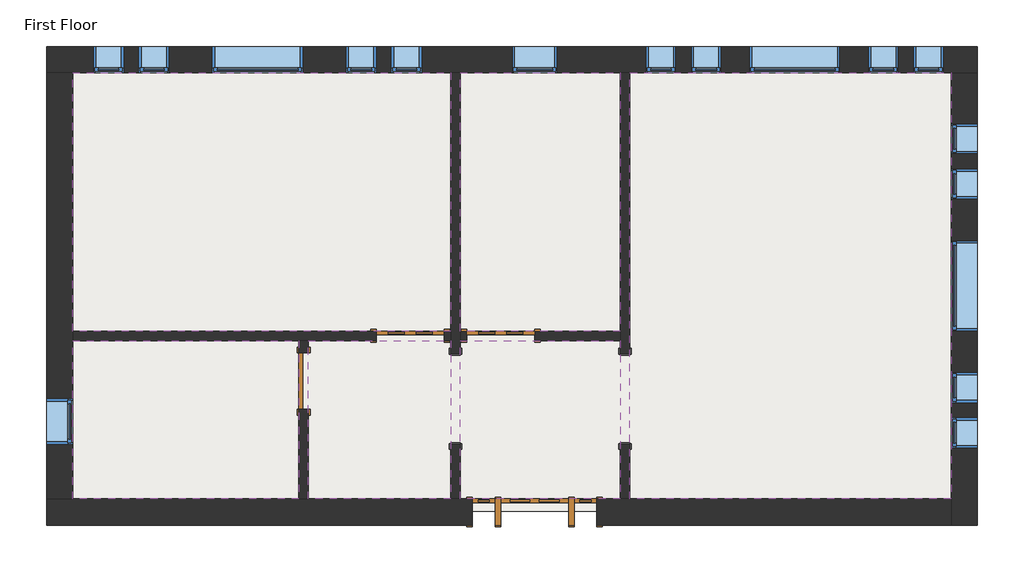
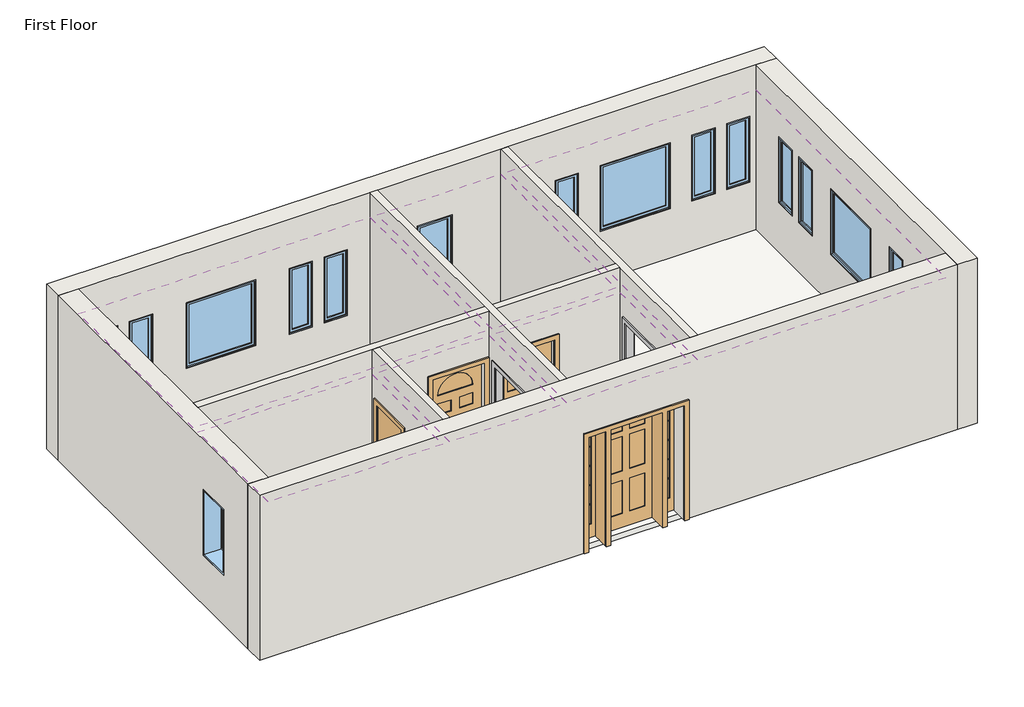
# One storey: 17 windows, 9 walls, 6 coverings, 4 doors, 2 proxies, 1 slab.
"""IFC4 building model written with IfcOpenShell, lengths in millimetres."""

from ifc_helpers import new_model, si_unit, frame, origin, place, context, project, spatial, polyline, outline, extrude, faceted_brep, transform, mapped, element, save
from components import proxy_f44482cc, door_829da954, door_2e3b4da2, door_4d6c7550, door_dba5aa2e, window_da97879f, window_d61ef850, window_60baf983, window_6eb97611

model = new_model("IFC4")

# Units and contexts
model_context = context("Model", 3, world=origin())
ifc_project = project(units=[si_unit("LENGTHUNIT", "METRE", prefix="MILLI")], contexts=[model_context])

# Site, building, storey
site = spatial("IfcSite", under=ifc_project)
building = spatial("IfcBuilding", under=site)
storey = spatial("IfcBuildingStorey", under=building, Name="First Floor", Elevation=0.0)

# Proxies
placement = place(None, origin())
proxy_shape = proxy_f44482cc(model_context)
element("IfcBuildingElementProxy", 1, Name="Opening-Cased : 48\" x 84\"", ObjectType="Opening-Cased : 48\" x 84\"", at=placement, inside=storey, context=model_context, shape_type="MappedRepresentation", body=[
    mapped(proxy_shape, transform((-3773.4589563, 5882.4203434, 0.0), x_axis=(0.0, 1.0, 0.0), y_axis=(-1.0, 0.0, 0.0), z_axis=(0.0, 0.0, 1.0))),
])
element("IfcBuildingElementProxy", 2, Name="Opening-Cased : 48\" x 84\"", ObjectType="Opening-Cased : 48\" x 84\"", at=placement, inside=storey, context=model_context, shape_type="MappedRepresentation", body=[
    mapped(proxy_shape, transform((-6059.4589563, 5866.04303, 0.0), x_axis=(0.0, -1.0, 0.0), y_axis=(1.0, 0.0, 0.0), z_axis=(0.0, 0.0, 1.0))),
])

# Coverings
element("IfcCovering", 3, ObjectType="GWB on Mtl. Stud", at=placement, inside=storey, context=model_context, shape_type="SweptSolid", body=[
    extrude(outline(polyline([(-11217.2464563, 10270.0191867), (-6122.9589563, 10270.0191867), (-6122.9589563, 6787.0441867), (-11217.2464563, 6787.0441867), (-11217.2464563, 10270.0191867)])), frame((0.0, 0.0, 2590.8), z_axis=(0.0, 0.0, 1.0), x_axis=(1.0, 0.0, 0.0)), (0.0, 0.0, 1.0), 107.95),
])
element("IfcCovering", 4, ObjectType="GWB on Mtl. Stud", at=placement, inside=storey, context=model_context, shape_type="SweptSolid", body=[
    extrude(outline(polyline([(-5995.9589563, 6787.0441867), (-5995.9589563, 10270.0191867), (-3836.9589563, 10270.0191867), (-3836.9589563, 6787.0441867), (-5995.9589563, 6787.0441867)])), frame((0.0, 0.0, 2590.8), z_axis=(0.0, 0.0, 1.0), x_axis=(1.0, 0.0, 0.0)), (0.0, 0.0, 1.0), 107.95),
])
element("IfcCovering", 5, ObjectType="GWB on Mtl. Stud", at=placement, inside=storey, context=model_context, shape_type="SweptSolid", body=[
    extrude(outline(polyline([(-3709.9589563, 4526.4441867), (-3709.9589563, 10270.0191867), (622.3285437, 10270.0191867), (622.3285437, 4526.4441867), (-3709.9589563, 4526.4441867)])), frame((0.0, 0.0, 2590.8), z_axis=(0.0, 0.0, 1.0), x_axis=(1.0, 0.0, 0.0)), (0.0, 0.0, 1.0), 107.95),
])
element("IfcCovering", 6, ObjectType="GWB on Mtl. Stud", at=placement, inside=storey, context=model_context, shape_type="SweptSolid", body=[
    extrude(outline(polyline([(-3836.9589563, 4526.4441867), (-5995.9589563, 4526.4441867), (-5995.9589563, 6660.0441867), (-3836.9589563, 6660.0441867), (-3836.9589563, 4526.4441867)])), frame((0.0, 0.0, 2590.8), z_axis=(0.0, 0.0, 1.0), x_axis=(1.0, 0.0, 0.0)), (0.0, 0.0, 1.0), 107.95),
])
element("IfcCovering", 7, ObjectType="GWB on Mtl. Stud", at=placement, inside=storey, context=model_context, shape_type="SweptSolid", body=[
    extrude(outline(polyline([(-8169.2464563, 6660.0441867), (-8169.2464563, 4526.4441867), (-11217.2464563, 4526.4441867), (-11217.2464563, 6660.0441867), (-8169.2464563, 6660.0441867)])), frame((0.0, 0.0, 2590.8), z_axis=(0.0, 0.0, 1.0), x_axis=(1.0, 0.0, 0.0)), (0.0, 0.0, 1.0), 107.95),
])
element("IfcCovering", 8, ObjectType="GWB on Mtl. Stud", at=placement, inside=storey, context=model_context, shape_type="SweptSolid", body=[
    extrude(outline(polyline([(-6122.9589563, 4526.4441867), (-8042.2464563, 4526.4441867), (-8042.2464563, 6660.0441867), (-6122.9589563, 6660.0441867), (-6122.9589563, 4526.4441867)])), frame((0.0, 0.0, 2590.8), z_axis=(0.0, 0.0, 1.0), x_axis=(1.0, 0.0, 0.0)), (0.0, 0.0, 1.0), 107.95),
])

# Doors
door_shape = door_829da954(model_context)
element("IfcDoor", 9, ObjectType="Single-Decorative 2 : 36\" x 84\"", at=placement, inside=storey, context=model_context, shape_type="MappedRepresentation", body=[
    mapped(door_shape, transform((-5449.8589563, 6723.5441867, 0.0), x_axis=(-1.0, 0.0, 0.0), y_axis=(0.0, -1.0, 0.0), z_axis=(0.0, 0.0, 1.0))),
])
door_2_shape = door_2e3b4da2(model_context)
element("IfcDoor", 10, ObjectType="Single-Decorative 2 : 36\" x 84\"", at=placement, inside=storey, context=model_context, shape_type="MappedRepresentation", body=[
    mapped(door_2_shape, transform((-6669.0589563, 6723.5441867, 0.0), x_axis=(1.0, 0.0, 0.0), y_axis=(0.0, 1.0, 0.0), z_axis=(0.0, 0.0, 1.0))),
])
door_3_shape = door_4d6c7550(model_context)
element("IfcDoor", 11, ObjectType="Single-Flush : 30\" x 84\"", at=placement, inside=storey, context=model_context, shape_type="MappedRepresentation", body=[
    mapped(door_3_shape, transform((-8105.7464563, 6113.9441867, 0.0), x_axis=(0.0, 1.0, 0.0), y_axis=(-1.0, 0.0, 0.0), z_axis=(0.0, 0.0, 1.0))),
])
door_4_shape = door_dba5aa2e(model_context)
element("IfcDoor", 12, ObjectType="Single-Raised Panel with Sidelights : 36\" x 84\"", at=placement, inside=storey, context=model_context, shape_type="MappedRepresentation", body=[
    mapped(door_4_shape, transform((-4992.6589563, 4350.2316867, 0.0), x_axis=(-1.0, 0.0, 0.0), y_axis=(0.0, -1.0, 0.0), z_axis=(0.0, 0.0, 1.0))),
])

# Slab
element("IfcSlab", 13, ObjectType="LW Concrete on Metal Deck", at=placement, inside=storey, context=model_context, shape_type="SweptSolid", body=[
    extrude(outline(polyline([(787.4285437, 10435.1191867), (787.4285437, 4361.3441867), (-11382.3464563, 4361.3441867), (-11382.3464563, 10435.1191867), (787.4285437, 10435.1191867)])), frame((0.0, 0.0, -104.775), z_axis=(0.0, 0.0, 1.0), x_axis=(1.0, 0.0, 0.0)), (0.0, 0.0, 1.0), 104.775),
])

# Walls
element("IfcWall", 14, ObjectType="Exterior - Brick on Mtl. Stud", at=placement, inside=storey, context=model_context, shape_type="Brep", body=[
    faceted_brep([(-11569.6714563, 10270.0191867, 0.0), (-11382.3464563, 10270.0191867, 0.0), (-11217.2464563, 10270.0191867, 0.0), (-6122.9589563, 10270.0191867, 0.0), (-5995.9589563, 10270.0191867, 0.0), (-3836.9589563, 10270.0191867, 0.0), (-3709.9589563, 10270.0191867, 0.0), (622.3285437, 10270.0191867, 0.0), (787.4285437, 10270.0191867, 0.0), (974.7535437, 10270.0191867, 0.0), (974.7535437, 10270.0191867, 3048.0), (622.3285437, 10270.0191867, 3048.0), (-3709.9589563, 10270.0191867, 3048.0), (-3836.9589563, 10270.0191867, 3048.0), (-5995.9589563, 10270.0191867, 3048.0), (-6122.9589563, 10270.0191867, 3048.0), (-11217.2464563, 10270.0191867, 3048.0), (-11569.6714563, 10270.0191867, 3048.0), (-2884.4589563, 10270.0191867, 2133.6), (-2478.0589563, 10270.0191867, 2133.6), (-2478.0589563, 10270.0191867, 914.4), (-2884.4589563, 10270.0191867, 914.4), (-3494.0589563, 10270.0191867, 2133.6), (-3087.6589563, 10270.0191867, 2133.6), (-3087.6589563, 10270.0191867, 914.4), (-3494.0589563, 10270.0191867, 914.4), (-10326.6589563, 10270.0191867, 2133.6), (-9920.2589563, 10270.0191867, 2133.6), (-9920.2589563, 10270.0191867, 914.4), (-10326.6589563, 10270.0191867, 914.4), (-10936.2589563, 10270.0191867, 2133.6), (-10529.8589563, 10270.0191867, 2133.6), (-10529.8589563, 10270.0191867, 914.4), (-10936.2589563, 10270.0191867, 914.4), (-2097.0589563, 10270.0191867, 2133.6), (-877.8589563, 10270.0191867, 2133.6), (-877.8589563, 10270.0191867, 914.4), (-2097.0589563, 10270.0191867, 914.4), (-9336.0589563, 10270.0191867, 2133.6), (-8116.8589563, 10270.0191867, 2133.6), (-8116.8589563, 10270.0191867, 914.4), (-9336.0589563, 10270.0191867, 914.4), (-5297.4589563, 10270.0191867, 2133.6), (-4687.8589563, 10270.0191867, 2133.6), (-4687.8589563, 10270.0191867, 914.4), (-5297.4589563, 10270.0191867, 914.4), (-6516.6589563, 10270.0191867, 2133.6), (-6516.6589563, 10270.0191867, 914.4), (-6923.0589563, 10270.0191867, 914.4), (-6923.0589563, 10270.0191867, 2133.6), (-7126.2589563, 10270.0191867, 2133.6), (-7126.2589563, 10270.0191867, 914.4), (-7532.6589563, 10270.0191867, 914.4), (-7532.6589563, 10270.0191867, 2133.6), (519.1410437, 10270.0191867, 2133.6), (519.1410437, 10270.0191867, 914.4), (112.7410437, 10270.0191867, 914.4), (112.7410437, 10270.0191867, 2133.6), (-90.4589563, 10270.0191867, 2133.6), (-90.4589563, 10270.0191867, 914.4), (-496.8589563, 10270.0191867, 914.4), (-496.8589563, 10270.0191867, 2133.6), (-11569.6714563, 10622.4441867, 0.0), (-11569.6714563, 10622.4441867, 3048.0), (974.7535437, 10622.4441867, 3048.0), (974.7535437, 10622.4441867, 0.0), (787.4285437, 10622.4441867, 0.0), (-11382.3464563, 10622.4441867, 0.0), (-2884.4589563, 10622.4441867, 2133.6), (-2884.4589563, 10622.4441867, 914.4), (-2478.0589563, 10622.4441867, 914.4), (-2478.0589563, 10622.4441867, 2133.6), (-3494.0589563, 10622.4441867, 2133.6), (-3494.0589563, 10622.4441867, 914.4), (-3087.6589563, 10622.4441867, 914.4), (-3087.6589563, 10622.4441867, 2133.6), (-10326.6589563, 10622.4441867, 2133.6), (-10326.6589563, 10622.4441867, 914.4), (-9920.2589563, 10622.4441867, 914.4), (-9920.2589563, 10622.4441867, 2133.6), (-10936.2589563, 10622.4441867, 2133.6), (-10936.2589563, 10622.4441867, 914.4), (-10529.8589563, 10622.4441867, 914.4), (-10529.8589563, 10622.4441867, 2133.6), (-2097.0589563, 10622.4441867, 2133.6), (-2097.0589563, 10622.4441867, 914.4), (-877.8589563, 10622.4441867, 914.4), (-877.8589563, 10622.4441867, 2133.6), (-9336.0589563, 10622.4441867, 2133.6), (-9336.0589563, 10622.4441867, 914.4), (-8116.8589563, 10622.4441867, 914.4), (-8116.8589563, 10622.4441867, 2133.6), (-5297.4589563, 10622.4441867, 2133.6), (-5297.4589563, 10622.4441867, 914.4), (-4687.8589563, 10622.4441867, 914.4), (-4687.8589563, 10622.4441867, 2133.6), (-6516.6589563, 10622.4441867, 2133.6), (-6923.0589563, 10622.4441867, 2133.6), (-6923.0589563, 10622.4441867, 914.4), (-6516.6589563, 10622.4441867, 914.4), (-7126.2589563, 10622.4441867, 2133.6), (-7532.6589563, 10622.4441867, 2133.6), (-7532.6589563, 10622.4441867, 914.4), (-7126.2589563, 10622.4441867, 914.4), (519.1410437, 10622.4441867, 2133.6), (112.7410437, 10622.4441867, 2133.6), (112.7410437, 10622.4441867, 914.4), (519.1410437, 10622.4441867, 914.4), (-90.4589563, 10622.4441867, 2133.6), (-496.8589563, 10622.4441867, 2133.6), (-496.8589563, 10622.4441867, 914.4), (-90.4589563, 10622.4441867, 914.4), (974.7535437, 10435.1191867, 0.0), (-11569.6714563, 10435.1191867, 0.0), (-11382.3464563, 10435.1191867, 0.0), (787.4285437, 10435.1191867, 0.0)], [[[0, 1, 2, 3, 4, 5, 6, 7, 8, 9, 10, 11, 12, 13, 14, 15, 16, 17], [18, 19, 20, 21], [22, 23, 24, 25], [26, 27, 28, 29], [30, 31, 32, 33], [34, 35, 36, 37], [38, 39, 40, 41], [42, 43, 44, 45], [46, 47, 48, 49], [50, 51, 52, 53], [54, 55, 56, 57], [58, 59, 60, 61]], [[62, 63, 64, 65, 66, 67], [68, 69, 70, 71], [72, 73, 74, 75], [76, 77, 78, 79], [80, 81, 82, 83], [84, 85, 86, 87], [88, 89, 90, 91], [92, 93, 94, 95], [96, 97, 98, 99], [100, 101, 102, 103], [104, 105, 106, 107], [108, 109, 110, 111]], [[17, 16, 15, 14, 13, 12, 11, 10, 64, 63]], [[10, 9, 112, 65, 64]], [[0, 17, 63, 62, 113]], [[1, 0, 113, 114]], [[113, 62, 67, 114]], [[9, 8, 115, 112]], [[67, 66, 115, 114]], [[66, 65, 112, 115]], [[8, 7, 6, 5, 4, 3, 2, 1, 114, 115]], [[69, 68, 18, 21]], [[70, 69, 21, 20]], [[71, 70, 20, 19]], [[68, 71, 19, 18]], [[73, 72, 22, 25]], [[74, 73, 25, 24]], [[75, 74, 24, 23]], [[72, 75, 23, 22]], [[77, 76, 26, 29]], [[78, 77, 29, 28]], [[79, 78, 28, 27]], [[76, 79, 27, 26]], [[81, 80, 30, 33]], [[82, 81, 33, 32]], [[83, 82, 32, 31]], [[80, 83, 31, 30]], [[85, 84, 34, 37]], [[86, 85, 37, 36]], [[87, 86, 36, 35]], [[84, 87, 35, 34]], [[89, 88, 38, 41]], [[90, 89, 41, 40]], [[91, 90, 40, 39]], [[88, 91, 39, 38]], [[93, 92, 42, 45]], [[94, 93, 45, 44]], [[95, 94, 44, 43]], [[92, 95, 43, 42]], [[47, 46, 96, 99]], [[48, 47, 99, 98]], [[49, 48, 98, 97]], [[46, 49, 97, 96]], [[51, 50, 100, 103]], [[52, 51, 103, 102]], [[53, 52, 102, 101]], [[50, 53, 101, 100]], [[55, 54, 104, 107]], [[56, 55, 107, 106]], [[57, 56, 106, 105]], [[54, 57, 105, 104]], [[59, 58, 108, 111]], [[60, 59, 111, 110]], [[61, 60, 110, 109]], [[58, 61, 109, 108]]]),
])
element("IfcWall", 15, ObjectType="Exterior - Brick on Mtl. Stud", at=placement, inside=storey, context=model_context, shape_type="Brep", body=[
    faceted_brep([(622.3285437, 10270.0191867, 0.0), (622.3285437, 4526.4441867, 0.0), (622.3285437, 4361.3441867, 0.0), (622.3285437, 4174.0191867, 0.0), (622.3285437, 4174.0191867, 3048.0), (622.3285437, 4526.4441867, 3048.0), (622.3285437, 10270.0191867, 3048.0), (622.3285437, 8973.0316867, 2133.6), (622.3285437, 8566.6316867, 2133.6), (622.3285437, 8566.6316867, 914.4), (622.3285437, 8973.0316867, 914.4), (622.3285437, 9582.6316867, 2133.6), (622.3285437, 9176.2316867, 2133.6), (622.3285437, 9176.2316867, 914.4), (622.3285437, 9582.6316867, 914.4), (622.3285437, 8007.8316867, 2133.6), (622.3285437, 6788.6316867, 2133.6), (622.3285437, 6788.6316867, 914.4), (622.3285437, 8007.8316867, 914.4), (622.3285437, 5213.8316867, 2133.6), (622.3285437, 5213.8316867, 914.4), (622.3285437, 5620.2316867, 914.4), (622.3285437, 5620.2316867, 2133.6), (622.3285437, 5823.4316867, 2133.6), (622.3285437, 5823.4316867, 914.4), (622.3285437, 6229.8316867, 914.4), (622.3285437, 6229.8316867, 2133.6), (974.7535437, 10270.0191867, 0.0), (974.7535437, 10270.0191867, 3048.0), (974.7535437, 4174.0191867, 3048.0), (974.7535437, 4174.0191867, 0.0), (974.7535437, 4361.3441867, 0.0), (974.7535437, 8973.0316867, 2133.6), (974.7535437, 8973.0316867, 914.4), (974.7535437, 8566.6316867, 914.4), (974.7535437, 8566.6316867, 2133.6), (974.7535437, 9582.6316867, 2133.6), (974.7535437, 9582.6316867, 914.4), (974.7535437, 9176.2316867, 914.4), (974.7535437, 9176.2316867, 2133.6), (974.7535437, 8007.8316867, 2133.6), (974.7535437, 8007.8316867, 914.4), (974.7535437, 6788.6316867, 914.4), (974.7535437, 6788.6316867, 2133.6), (974.7535437, 5213.8316867, 2133.6), (974.7535437, 5620.2316867, 2133.6), (974.7535437, 5620.2316867, 914.4), (974.7535437, 5213.8316867, 914.4), (974.7535437, 5823.4316867, 2133.6), (974.7535437, 6229.8316867, 2133.6), (974.7535437, 6229.8316867, 914.4), (974.7535437, 5823.4316867, 914.4), (787.4285437, 4174.0191867, 0.0), (787.4285437, 10270.0191867, 0.0), (787.4285437, 4361.3441867, 0.0)], [[[0, 1, 2, 3, 4, 5, 6], [7, 8, 9, 10], [11, 12, 13, 14], [15, 16, 17, 18], [19, 20, 21, 22], [23, 24, 25, 26]], [[27, 28, 29, 30, 31], [32, 33, 34, 35], [36, 37, 38, 39], [40, 41, 42, 43], [44, 45, 46, 47], [48, 49, 50, 51]], [[6, 5, 4, 29, 28]], [[4, 3, 52, 30, 29]], [[0, 6, 28, 27, 53]], [[53, 27, 31, 54]], [[3, 2, 54, 52]], [[54, 31, 30, 52]], [[2, 1, 0, 53, 54]], [[33, 32, 7, 10]], [[34, 33, 10, 9]], [[35, 34, 9, 8]], [[32, 35, 8, 7]], [[37, 36, 11, 14]], [[38, 37, 14, 13]], [[39, 38, 13, 12]], [[36, 39, 12, 11]], [[41, 40, 15, 18]], [[42, 41, 18, 17]], [[43, 42, 17, 16]], [[40, 43, 16, 15]], [[20, 19, 44, 47]], [[21, 20, 47, 46]], [[22, 21, 46, 45]], [[19, 22, 45, 44]], [[24, 23, 48, 51]], [[25, 24, 51, 50]], [[26, 25, 50, 49]], [[23, 26, 49, 48]]]),
])
element("IfcWall", 16, ObjectType="Exterior - Brick on Mtl. Stud", at=placement, inside=storey, context=model_context, shape_type="Brep", body=[
    faceted_brep([(-5830.8589563, 4526.4441867, 2133.6), (-5830.8589563, 4526.4441867, 0.0), (-5995.9589563, 4526.4441867, 0.0), (-6122.9589563, 4526.4441867, 0.0), (-8042.2464563, 4526.4441867, 0.0), (-8169.2464563, 4526.4441867, 0.0), (-11217.2464563, 4526.4441867, 0.0), (-11569.6714563, 4526.4441867, 0.0), (-11569.6714563, 4526.4441867, 3048.0), (-11217.2464563, 4526.4441867, 3048.0), (-8169.2464563, 4526.4441867, 3048.0), (-8042.2464563, 4526.4441867, 3048.0), (-6122.9589563, 4526.4441867, 3048.0), (-5995.9589563, 4526.4441867, 3048.0), (-3836.9589563, 4526.4441867, 3048.0), (-3709.9589563, 4526.4441867, 3048.0), (622.3285437, 4526.4441867, 3048.0), (622.3285437, 4526.4441867, 0.0), (-3709.9589563, 4526.4441867, 0.0), (-3836.9589563, 4526.4441867, 0.0), (-4154.4589563, 4526.4441867, 0.0), (-4154.4589563, 4526.4441867, 2133.6), (-11569.6714563, 4174.0191867, 0.0), (-5830.8589563, 4174.0191867, 0.0), (-5830.8589563, 4174.0191867, 2133.6), (-4154.4589563, 4174.0191867, 2133.6), (-4154.4589563, 4174.0191867, 0.0), (622.3285437, 4174.0191867, 0.0), (622.3285437, 4174.0191867, 3048.0), (-11569.6714563, 4174.0191867, 3048.0)], [[[0, 1, 2, 3, 4, 5, 6, 7, 8, 9, 10, 11, 12, 13, 14, 15, 16, 17, 18, 19, 20, 21]], [[22, 23, 24, 25, 26, 27, 28, 29]], [[7, 6, 5, 4, 3, 2, 1, 23, 22]], [[20, 19, 18, 17, 27, 26]], [[16, 15, 14, 13, 12, 11, 10, 9, 8, 29, 28]], [[8, 7, 22, 29]], [[17, 16, 28, 27]], [[24, 23, 1, 0]], [[25, 24, 0, 21]], [[26, 25, 21, 20]]]),
])
element("IfcWall", 17, ObjectType="Exterior - Brick on Mtl. Stud", at=placement, inside=storey, context=model_context, shape_type="Brep", body=[
    faceted_brep([(-11217.2464563, 4526.4441867, 0.0), (-11217.2464563, 6660.0441867, 0.0), (-11217.2464563, 6787.0441867, 0.0), (-11217.2464563, 10270.0191867, 0.0), (-11217.2464563, 10270.0191867, 3048.0), (-11217.2464563, 6787.0441867, 3048.0), (-11217.2464563, 6660.0441867, 3048.0), (-11217.2464563, 4526.4441867, 3048.0), (-11217.2464563, 5264.6316867, 2133.6), (-11217.2464563, 5874.2316867, 2133.6), (-11217.2464563, 5874.2316867, 914.4), (-11217.2464563, 5264.6316867, 914.4), (-11569.6714563, 4526.4441867, 0.0), (-11569.6714563, 4526.4441867, 3048.0), (-11569.6714563, 10270.0191867, 3048.0), (-11569.6714563, 10270.0191867, 0.0), (-11569.6714563, 5264.6316867, 2133.6), (-11569.6714563, 5264.6316867, 914.4), (-11569.6714563, 5874.2316867, 914.4), (-11569.6714563, 5874.2316867, 2133.6), (-11382.3464563, 4526.4441867, 0.0), (-11382.3464563, 10270.0191867, 0.0)], [[[0, 1, 2, 3, 4, 5, 6, 7], [8, 9, 10, 11]], [[12, 13, 14, 15], [16, 17, 18, 19]], [[7, 6, 5, 4, 14, 13]], [[0, 7, 13, 12, 20]], [[4, 3, 21, 15, 14]], [[20, 12, 15, 21]], [[3, 2, 1, 0, 20, 21]], [[17, 16, 8, 11]], [[18, 17, 11, 10]], [[19, 18, 10, 9]], [[16, 19, 9, 8]]]),
])
element("IfcWall", 18, ObjectType="Interior - 5\" Partition (2-hr)", at=placement, inside=storey, context=model_context, shape_type="Brep", body=[
    faceted_brep([(-3836.9589563, 10270.0191867, 0.0), (-3836.9589563, 6787.0441867, 0.0), (-3836.9589563, 6660.0441867, 0.0), (-3836.9589563, 6483.8316867, 0.0), (-3836.9589563, 6483.8316867, 2133.6), (-3836.9589563, 5264.6316867, 2133.6), (-3836.9589563, 5264.6316867, 0.0), (-3836.9589563, 4526.4441867, 0.0), (-3836.9589563, 4526.4441867, 3048.0), (-3836.9589563, 6660.0441867, 3048.0), (-3836.9589563, 6787.0441867, 3048.0), (-3836.9589563, 10270.0191867, 3048.0), (-3709.9589563, 6483.8316867, 2133.6), (-3709.9589563, 6483.8316867, 0.0), (-3709.9589563, 10270.0191867, 0.0), (-3709.9589563, 10270.0191867, 3048.0), (-3709.9589563, 4526.4441867, 3048.0), (-3709.9589563, 4526.4441867, 0.0), (-3709.9589563, 5264.6316867, 0.0), (-3709.9589563, 5264.6316867, 2133.6)], [[[0, 1, 2, 3, 4, 5, 6, 7, 8, 9, 10, 11]], [[12, 13, 14, 15, 16, 17, 18, 19]], [[14, 13, 3, 2, 1, 0]], [[18, 17, 7, 6]], [[11, 10, 9, 8, 16, 15]], [[0, 11, 15, 14]], [[8, 7, 17, 16]], [[6, 5, 19, 18]], [[4, 3, 13, 12]], [[5, 4, 12, 19]]]),
])
element("IfcWall", 19, ObjectType="Interior - 5\" Partition (2-hr)", at=placement, inside=storey, context=model_context, shape_type="Brep", body=[
    faceted_brep([(-6122.9589563, 5264.6316867, 2133.6), (-6122.9589563, 5264.6316867, 0.0), (-6122.9589563, 4526.4441867, 0.0), (-6122.9589563, 4526.4441867, 3048.0), (-6122.9589563, 6660.0441867, 3048.0), (-6122.9589563, 6787.0441867, 3048.0), (-6122.9589563, 10270.0191867, 3048.0), (-6122.9589563, 10270.0191867, 0.0), (-6122.9589563, 6787.0441867, 0.0), (-6122.9589563, 6660.0441867, 0.0), (-6122.9589563, 6483.8316867, 0.0), (-6122.9589563, 6483.8316867, 2133.6), (-5995.9589563, 4526.4441867, 0.0), (-5995.9589563, 5264.6316867, 0.0), (-5995.9589563, 5264.6316867, 2133.6), (-5995.9589563, 6483.8316867, 2133.6), (-5995.9589563, 6483.8316867, 0.0), (-5995.9589563, 6660.0441867, 0.0), (-5995.9589563, 6787.0441867, 0.0), (-5995.9589563, 10270.0191867, 0.0), (-5995.9589563, 10270.0191867, 3048.0), (-5995.9589563, 6787.0441867, 3048.0), (-5995.9589563, 6660.0441867, 3048.0), (-5995.9589563, 4526.4441867, 3048.0)], [[[0, 1, 2, 3, 4, 5, 6, 7, 8, 9, 10, 11]], [[12, 13, 14, 15, 16, 17, 18, 19, 20, 21, 22, 23]], [[2, 1, 13, 12]], [[10, 9, 8, 7, 19, 18, 17, 16]], [[6, 5, 4, 3, 23, 22, 21, 20]], [[7, 6, 20, 19]], [[3, 2, 12, 23]], [[16, 15, 11, 10]], [[14, 13, 1, 0]], [[15, 14, 0, 11]]]),
])
element("IfcWall", 20, ObjectType="Interior - 5\" Partition (2-hr)", at=placement, inside=storey, context=model_context, shape_type="Brep", body=[
    faceted_brep([(-6211.8589563, 6660.0441867, 2133.6), (-6211.8589563, 6660.0441867, 0.0), (-6122.9589563, 6660.0441867, 0.0), (-6122.9589563, 6660.0441867, 3048.0), (-8042.2464563, 6660.0441867, 3048.0), (-8169.2464563, 6660.0441867, 3048.0), (-11217.2464563, 6660.0441867, 3048.0), (-11217.2464563, 6660.0441867, 0.0), (-8169.2464563, 6660.0441867, 0.0), (-8042.2464563, 6660.0441867, 0.0), (-7126.2589563, 6660.0441867, 0.0), (-7126.2589563, 6660.0441867, 2133.6), (-6122.9589563, 6787.0441867, 0.0), (-6211.8589563, 6787.0441867, 0.0), (-6211.8589563, 6787.0441867, 2133.6), (-7126.2589563, 6787.0441867, 2133.6), (-7126.2589563, 6787.0441867, 0.0), (-11217.2464563, 6787.0441867, 0.0), (-11217.2464563, 6787.0441867, 3048.0), (-6122.9589563, 6787.0441867, 3048.0)], [[[0, 1, 2, 3, 4, 5, 6, 7, 8, 9, 10, 11]], [[12, 13, 14, 15, 16, 17, 18, 19]], [[2, 1, 13, 12]], [[10, 9, 8, 7, 17, 16]], [[6, 5, 4, 3, 19, 18]], [[7, 6, 18, 17]], [[3, 2, 12, 19]], [[14, 13, 1, 0]], [[15, 14, 0, 11]], [[16, 15, 11, 10]]]),
])
element("IfcWall", 21, ObjectType="Interior - 5\" Partition (2-hr)", at=placement, inside=storey, context=model_context, shape_type="SweptSolid", body=[
    extrude(outline(polyline([(6660.0441867, 0.0), (6494.9441867, 0.0), (6494.9441867, 2133.6), (5732.9441867, 2133.6), (5732.9441867, 0.0), (4526.4441867, 0.0), (4526.4441867, 3048.0), (6660.0441867, 3048.0), (6660.0441867, 0.0)])), frame((-8169.2464563, 0.0, 0.0), z_axis=(1.0, 0.0, 0.0), x_axis=(0.0, 1.0, 0.0)), (0.0, 0.0, 1.0), 127.0),
])
element("IfcWall", 22, ObjectType="Interior - 5\" Partition (2-hr)", at=placement, inside=storey, context=model_context, shape_type="SweptSolid", body=[
    extrude(outline(polyline([(0.0, -5995.9589563), (0.0, -5907.0589563), (2133.6, -5907.0589563), (2133.6, -4992.6589563), (0.0, -4992.6589563), (0.0, -3836.9589563), (3048.0, -3836.9589563), (3048.0, -5995.9589563), (0.0, -5995.9589563)])), frame((0.0, 6660.0441867, 0.0), z_axis=(0.0, 1.0, 0.0), x_axis=(0.0, 0.0, 1.0)), (0.0, 0.0, 1.0), 127.0),
])

# Windows
window_shape = window_da97879f(model_context)
element("IfcWindow", 23, ObjectType="Fixed : 16\" x 48\"", at=placement, inside=storey, context=model_context, shape_type="MappedRepresentation", body=[
    mapped(window_shape, transform((-10771.1589563, 10446.2316867, 0.0), x_axis=(-1.0, 0.0, 0.0), y_axis=(0.0, -1.0, 0.0), z_axis=(0.0, 0.0, 1.0))),
])
element("IfcWindow", 24, ObjectType="Fixed : 16\" x 48\"", at=placement, inside=storey, context=model_context, shape_type="MappedRepresentation", body=[
    mapped(window_shape, transform((-10161.5589563, 10446.2316867, 0.0), x_axis=(-1.0, 0.0, 0.0), y_axis=(0.0, -1.0, 0.0), z_axis=(0.0, 0.0, 1.0))),
])
element("IfcWindow", 25, ObjectType="Fixed : 16\" x 48\"", at=placement, inside=storey, context=model_context, shape_type="MappedRepresentation", body=[
    mapped(window_shape, transform((-3328.9589563, 10446.2316867, 0.0), x_axis=(-1.0, 0.0, 0.0), y_axis=(0.0, -1.0, 0.0), z_axis=(0.0, 0.0, 1.0))),
])
element("IfcWindow", 26, ObjectType="Fixed : 16\" x 48\"", at=placement, inside=storey, context=model_context, shape_type="MappedRepresentation", body=[
    mapped(window_shape, transform((-2719.3589563, 10446.2316867, 0.0), x_axis=(-1.0, 0.0, 0.0), y_axis=(0.0, -1.0, 0.0), z_axis=(0.0, 0.0, 1.0))),
])
element("IfcWindow", 27, ObjectType="Fixed : 16\" x 48\"", at=placement, inside=storey, context=model_context, shape_type="MappedRepresentation", body=[
    mapped(window_shape, transform((798.5410437, 9417.5316867, 0.0), x_axis=(0.0, 1.0, 0.0), y_axis=(-1.0, 0.0, 0.0), z_axis=(0.0, 0.0, 1.0))),
])
element("IfcWindow", 28, ObjectType="Fixed : 16\" x 48\"", at=placement, inside=storey, context=model_context, shape_type="MappedRepresentation", body=[
    mapped(window_shape, transform((798.5410437, 8807.9316867, 0.0), x_axis=(0.0, 1.0, 0.0), y_axis=(-1.0, 0.0, 0.0), z_axis=(0.0, 0.0, 1.0))),
])
window_2_shape = window_d61ef850(model_context)
element("IfcWindow", 29, ObjectType="Fixed : 16\" x 48\"", at=placement, inside=storey, context=model_context, shape_type="MappedRepresentation", body=[
    mapped(window_2_shape, transform((-6681.7589563, 10446.2316867, 0.0), x_axis=(1.0, 0.0, 0.0), y_axis=(0.0, 1.0, 0.0), z_axis=(0.0, 0.0, 1.0))),
])
element("IfcWindow", 30, ObjectType="Fixed : 16\" x 48\"", at=placement, inside=storey, context=model_context, shape_type="MappedRepresentation", body=[
    mapped(window_2_shape, transform((-7291.3589563, 10446.2316867, 0.0), x_axis=(1.0, 0.0, 0.0), y_axis=(0.0, 1.0, 0.0), z_axis=(0.0, 0.0, 1.0))),
])
element("IfcWindow", 31, ObjectType="Fixed : 16\" x 48\"", at=placement, inside=storey, context=model_context, shape_type="MappedRepresentation", body=[
    mapped(window_2_shape, transform((354.0410437, 10446.2316867, 0.0), x_axis=(1.0, 0.0, 0.0), y_axis=(0.0, 1.0, 0.0), z_axis=(0.0, 0.0, 1.0))),
])
element("IfcWindow", 32, ObjectType="Fixed : 16\" x 48\"", at=placement, inside=storey, context=model_context, shape_type="MappedRepresentation", body=[
    mapped(window_2_shape, transform((-255.5589563, 10446.2316867, 0.0), x_axis=(1.0, 0.0, 0.0), y_axis=(0.0, 1.0, 0.0), z_axis=(0.0, 0.0, 1.0))),
])
element("IfcWindow", 33, ObjectType="Fixed : 16\" x 48\"", at=placement, inside=storey, context=model_context, shape_type="MappedRepresentation", body=[
    mapped(window_2_shape, transform((798.5410437, 5378.9316867, 0.0), x_axis=(0.0, -1.0, 0.0), y_axis=(1.0, 0.0, 0.0), z_axis=(0.0, 0.0, 1.0))),
])
element("IfcWindow", 34, ObjectType="Fixed : 16\" x 48\"", at=placement, inside=storey, context=model_context, shape_type="MappedRepresentation", body=[
    mapped(window_2_shape, transform((798.5410437, 5988.5316867, 0.0), x_axis=(0.0, -1.0, 0.0), y_axis=(1.0, 0.0, 0.0), z_axis=(0.0, 0.0, 1.0))),
])
window_3_shape = window_60baf983(model_context)
element("IfcWindow", 35, ObjectType="Fixed : 24\" x 48\"", at=placement, inside=storey, context=model_context, shape_type="MappedRepresentation", body=[
    mapped(window_3_shape, transform((-5030.7589563, 10446.2316867, 0.0), x_axis=(-1.0, 0.0, 0.0), y_axis=(0.0, -1.0, 0.0), z_axis=(0.0, 0.0, 1.0))),
])
element("IfcWindow", 36, ObjectType="Fixed : 24\" x 48\"", at=placement, inside=storey, context=model_context, shape_type="MappedRepresentation", body=[
    mapped(window_3_shape, transform((-11393.4589563, 5531.3316867, 0.0), x_axis=(0.0, -1.0, 0.0), y_axis=(1.0, 0.0, 0.0), z_axis=(0.0, 0.0, 1.0))),
])
window_4_shape = window_6eb97611(model_context)
element("IfcWindow", 37, ObjectType="Fixed : 48\" x 48\"", at=placement, inside=storey, context=model_context, shape_type="MappedRepresentation", body=[
    mapped(window_4_shape, transform((-8764.5589563, 10446.2316867, 0.0), x_axis=(-1.0, 0.0, 0.0), y_axis=(0.0, -1.0, 0.0), z_axis=(0.0, 0.0, 1.0))),
])
element("IfcWindow", 38, ObjectType="Fixed : 48\" x 48\"", at=placement, inside=storey, context=model_context, shape_type="MappedRepresentation", body=[
    mapped(window_4_shape, transform((-1525.5589563, 10446.2316867, 0.0), x_axis=(-1.0, 0.0, 0.0), y_axis=(0.0, -1.0, 0.0), z_axis=(0.0, 0.0, 1.0))),
])
element("IfcWindow", 39, ObjectType="Fixed : 48\" x 48\"", at=placement, inside=storey, context=model_context, shape_type="MappedRepresentation", body=[
    mapped(window_4_shape, transform((798.5410437, 7436.3316867, 0.0), x_axis=(0.0, 1.0, 0.0), y_axis=(-1.0, 0.0, 0.0), z_axis=(0.0, 0.0, 1.0))),
])

save(model, "model.ifc")
